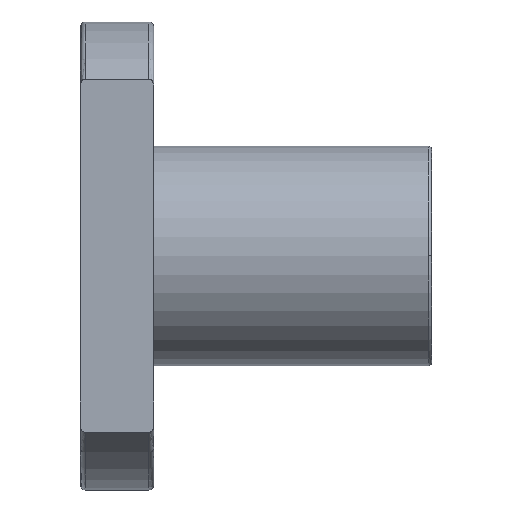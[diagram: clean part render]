
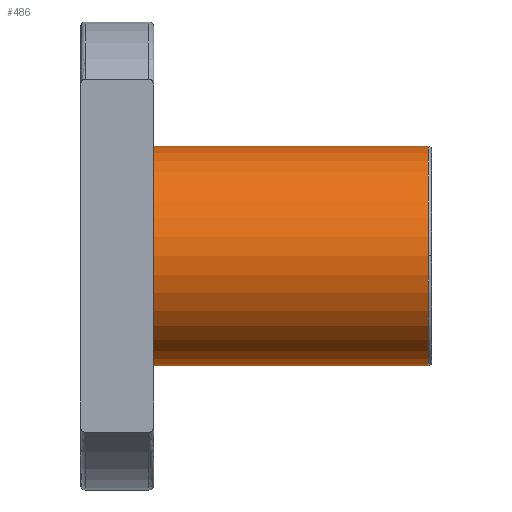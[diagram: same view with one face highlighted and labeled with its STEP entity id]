
A CAD part, top view. The second image highlights one B-rep face of the part: STEP entity #486.
In plain terms, the highlighted cylindrical face has radius 7.5 mm (diameter 15 mm), a partial arc.
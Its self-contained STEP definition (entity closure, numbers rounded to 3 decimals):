
#335 = TOROIDAL_SURFACE('',#336,7.29,0.21);
#336 = AXIS2_PLACEMENT_3D('',#337,#338,#339);
#337 = CARTESIAN_POINT('',(23.79,0.,0.));
#338 = DIRECTION('',(1.,0.,0.));
#339 = DIRECTION('',(0.,0.,-1.));
#347 = TOROIDAL_SURFACE('',#348,7.29,0.21);
#348 = AXIS2_PLACEMENT_3D('',#349,#350,#351);
#349 = CARTESIAN_POINT('',(23.79,0.,0.));
#350 = DIRECTION('',(1.,0.,0.));
#351 = DIRECTION('',(0.,0.,-1.));
#360 = VERTEX_POINT('',#361);
#361 = CARTESIAN_POINT('',(23.79,7.5,0.));
#376 = CYLINDRICAL_SURFACE('',#377,7.5);
#377 = AXIS2_PLACEMENT_3D('',#378,#379,#380);
#378 = CARTESIAN_POINT('',(14.395,0.,0.));
#379 = DIRECTION('',(1.,0.,0.));
#380 = DIRECTION('',(-0.,1.,0.));
#388 = EDGE_CURVE('',#360,#389,#391,.T.);
#389 = VERTEX_POINT('',#390);
#390 = CARTESIAN_POINT('',(23.79,0.,7.5));
#391 = SURFACE_CURVE('',#392,(#397,#404),.PCURVE_S1.);
#392 = CIRCLE('',#393,7.5);
#393 = AXIS2_PLACEMENT_3D('',#394,#395,#396);
#394 = CARTESIAN_POINT('',(23.79,0.,0.));
#395 = DIRECTION('',(1.,0.,0.));
#396 = DIRECTION('',(-0.,1.,0.));
#397 = PCURVE('',#335,#398);
#398 = DEFINITIONAL_REPRESENTATION('',(#399),#403);
#399 = LINE('',#400,#401);
#400 = CARTESIAN_POINT('',(1.571,0.));
#401 = VECTOR('',#402,1.);
#402 = DIRECTION('',(1.,0.));
#403 = ( GEOMETRIC_REPRESENTATION_CONTEXT(2) 
PARAMETRIC_REPRESENTATION_CONTEXT() REPRESENTATION_CONTEXT('2D SPACE',''
  ) );
#404 = PCURVE('',#405,#410);
#405 = CYLINDRICAL_SURFACE('',#406,7.5);
#406 = AXIS2_PLACEMENT_3D('',#407,#408,#409);
#407 = CARTESIAN_POINT('',(14.395,0.,0.));
#408 = DIRECTION('',(1.,0.,0.));
#409 = DIRECTION('',(-0.,1.,0.));
#410 = DEFINITIONAL_REPRESENTATION('',(#411),#415);
#411 = LINE('',#412,#413);
#412 = CARTESIAN_POINT('',(0.,9.395));
#413 = VECTOR('',#414,1.);
#414 = DIRECTION('',(1.,0.));
#415 = ( GEOMETRIC_REPRESENTATION_CONTEXT(2) 
PARAMETRIC_REPRESENTATION_CONTEXT() REPRESENTATION_CONTEXT('2D SPACE',''
  ) );
#486 = ADVANCED_FACE('',(#487),#405,.T.);
#487 = FACE_BOUND('',#488,.T.);
#488 = EDGE_LOOP('',(#489,#512,#541,#564,#586));
#489 = ORIENTED_EDGE('',*,*,#490,.F.);
#490 = EDGE_CURVE('',#491,#360,#493,.T.);
#491 = VERTEX_POINT('',#492);
#492 = CARTESIAN_POINT('',(5.,7.5,0.));
#493 = SURFACE_CURVE('',#494,(#498,#505),.PCURVE_S1.);
#494 = LINE('',#495,#496);
#495 = CARTESIAN_POINT('',(14.395,7.5,0.));
#496 = VECTOR('',#497,1.);
#497 = DIRECTION('',(1.,0.,0.));
#498 = PCURVE('',#405,#499);
#499 = DEFINITIONAL_REPRESENTATION('',(#500),#504);
#500 = LINE('',#501,#502);
#501 = CARTESIAN_POINT('',(0.,0.));
#502 = VECTOR('',#503,1.);
#503 = DIRECTION('',(0.,1.));
#504 = ( GEOMETRIC_REPRESENTATION_CONTEXT(2) 
PARAMETRIC_REPRESENTATION_CONTEXT() REPRESENTATION_CONTEXT('2D SPACE',''
  ) );
#505 = PCURVE('',#376,#506);
#506 = DEFINITIONAL_REPRESENTATION('',(#507),#511);
#507 = LINE('',#508,#509);
#508 = CARTESIAN_POINT('',(6.283,0.));
#509 = VECTOR('',#510,1.);
#510 = DIRECTION('',(0.,1.));
#511 = ( GEOMETRIC_REPRESENTATION_CONTEXT(2) 
PARAMETRIC_REPRESENTATION_CONTEXT() REPRESENTATION_CONTEXT('2D SPACE',''
  ) );
#512 = ORIENTED_EDGE('',*,*,#513,.T.);
#513 = EDGE_CURVE('',#491,#514,#516,.T.);
#514 = VERTEX_POINT('',#515);
#515 = CARTESIAN_POINT('',(5.,-7.5,0.));
#516 = SURFACE_CURVE('',#517,(#522,#529),.PCURVE_S1.);
#517 = CIRCLE('',#518,7.5);
#518 = AXIS2_PLACEMENT_3D('',#519,#520,#521);
#519 = CARTESIAN_POINT('',(5.,0.,0.));
#520 = DIRECTION('',(1.,0.,0.));
#521 = DIRECTION('',(-0.,1.,0.));
#522 = PCURVE('',#405,#523);
#523 = DEFINITIONAL_REPRESENTATION('',(#524),#528);
#524 = LINE('',#525,#526);
#525 = CARTESIAN_POINT('',(0.,-9.395));
#526 = VECTOR('',#527,1.);
#527 = DIRECTION('',(1.,0.));
#528 = ( GEOMETRIC_REPRESENTATION_CONTEXT(2) 
PARAMETRIC_REPRESENTATION_CONTEXT() REPRESENTATION_CONTEXT('2D SPACE',''
  ) );
#529 = PCURVE('',#530,#535);
#530 = PLANE('',#531);
#531 = AXIS2_PLACEMENT_3D('',#532,#533,#534);
#532 = CARTESIAN_POINT('',(5.,11.59,0.));
#533 = DIRECTION('',(1.,0.,0.));
#534 = DIRECTION('',(0.,1.,0.));
#535 = DEFINITIONAL_REPRESENTATION('',(#536),#540);
#536 = CIRCLE('',#537,7.5);
#537 = AXIS2_PLACEMENT_2D('',#538,#539);
#538 = CARTESIAN_POINT('',(-11.59,0.));
#539 = DIRECTION('',(1.,0.));
#540 = ( GEOMETRIC_REPRESENTATION_CONTEXT(2) 
PARAMETRIC_REPRESENTATION_CONTEXT() REPRESENTATION_CONTEXT('2D SPACE',''
  ) );
#541 = ORIENTED_EDGE('',*,*,#542,.F.);
#542 = EDGE_CURVE('',#543,#514,#545,.T.);
#543 = VERTEX_POINT('',#544);
#544 = CARTESIAN_POINT('',(23.79,-7.5,0.));
#545 = SURFACE_CURVE('',#546,(#550,#557),.PCURVE_S1.);
#546 = LINE('',#547,#548);
#547 = CARTESIAN_POINT('',(14.395,-7.5,0.));
#548 = VECTOR('',#549,1.);
#549 = DIRECTION('',(-1.,-0.,-0.));
#550 = PCURVE('',#405,#551);
#551 = DEFINITIONAL_REPRESENTATION('',(#552),#556);
#552 = LINE('',#553,#554);
#553 = CARTESIAN_POINT('',(3.142,0.));
#554 = VECTOR('',#555,1.);
#555 = DIRECTION('',(0.,-1.));
#556 = ( GEOMETRIC_REPRESENTATION_CONTEXT(2) 
PARAMETRIC_REPRESENTATION_CONTEXT() REPRESENTATION_CONTEXT('2D SPACE',''
  ) );
#557 = PCURVE('',#376,#558);
#558 = DEFINITIONAL_REPRESENTATION('',(#559),#563);
#559 = LINE('',#560,#561);
#560 = CARTESIAN_POINT('',(3.142,0.));
#561 = VECTOR('',#562,1.);
#562 = DIRECTION('',(0.,-1.));
#563 = ( GEOMETRIC_REPRESENTATION_CONTEXT(2) 
PARAMETRIC_REPRESENTATION_CONTEXT() REPRESENTATION_CONTEXT('2D SPACE',''
  ) );
#564 = ORIENTED_EDGE('',*,*,#565,.F.);
#565 = EDGE_CURVE('',#389,#543,#566,.T.);
#566 = SURFACE_CURVE('',#567,(#572,#579),.PCURVE_S1.);
#567 = CIRCLE('',#568,7.5);
#568 = AXIS2_PLACEMENT_3D('',#569,#570,#571);
#569 = CARTESIAN_POINT('',(23.79,0.,0.));
#570 = DIRECTION('',(1.,0.,0.));
#571 = DIRECTION('',(-0.,1.,0.));
#572 = PCURVE('',#405,#573);
#573 = DEFINITIONAL_REPRESENTATION('',(#574),#578);
#574 = LINE('',#575,#576);
#575 = CARTESIAN_POINT('',(0.,9.395));
#576 = VECTOR('',#577,1.);
#577 = DIRECTION('',(1.,0.));
#578 = ( GEOMETRIC_REPRESENTATION_CONTEXT(2) 
PARAMETRIC_REPRESENTATION_CONTEXT() REPRESENTATION_CONTEXT('2D SPACE',''
  ) );
#579 = PCURVE('',#347,#580);
#580 = DEFINITIONAL_REPRESENTATION('',(#581),#585);
#581 = LINE('',#582,#583);
#582 = CARTESIAN_POINT('',(1.571,0.));
#583 = VECTOR('',#584,1.);
#584 = DIRECTION('',(1.,0.));
#585 = ( GEOMETRIC_REPRESENTATION_CONTEXT(2) 
PARAMETRIC_REPRESENTATION_CONTEXT() REPRESENTATION_CONTEXT('2D SPACE',''
  ) );
#586 = ORIENTED_EDGE('',*,*,#388,.F.);
